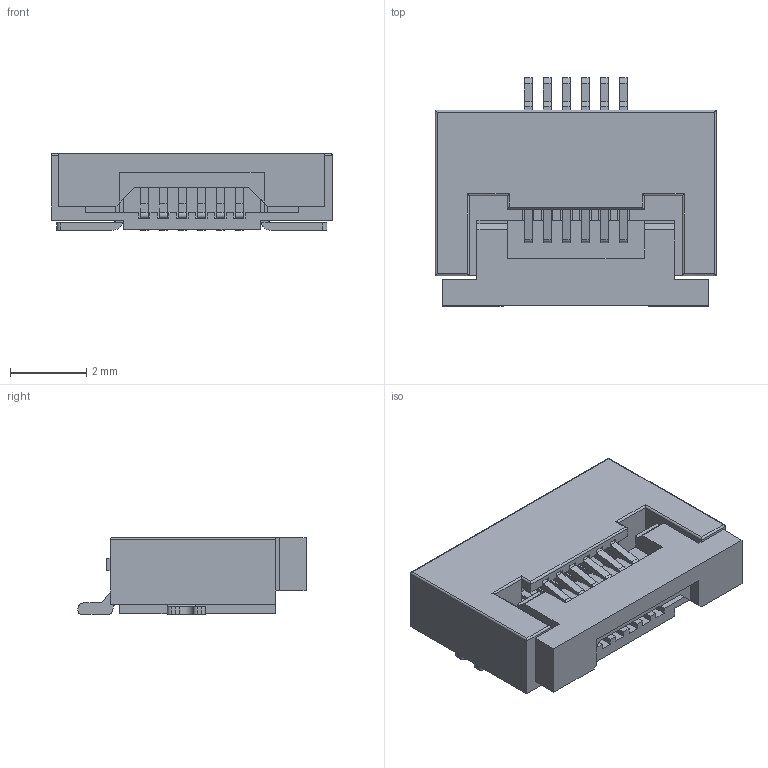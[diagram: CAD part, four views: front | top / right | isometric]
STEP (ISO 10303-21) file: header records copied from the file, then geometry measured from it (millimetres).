
FILE_DESCRIPTION (( 'STEP AP214' ), '1' );
FILE_NAME ('FPC-SMD_6P-P0.50_HC-FPC-0.5-6P-FH20.STEP', '2023-12-03T03:11:44', ( '' ), ( '' ), 'SwSTEP 2.0', 'SolidWorks 2020', '' );
FILE_SCHEMA (( 'AUTOMOTIVE_DESIGN' ));
Length unit declared in the file: millimetre
Products named in the file (1): FPC-SMD_6P-P0.50_HC-FPC-0.5-6P-FH20
Bounding box: 7.41 x 6 x 2.02 mm (x, y, z)
Volume: 48.6 mm3; surface area: 290.3 mm2
Topology: 10 solids, 10 shells, 566 faces, 1589 edges, 1048 vertices
Faces by surface type: plane 404, bspline 98, cylinder 64
Entity records: 24861 total; most frequent: CARTESIAN_POINT 4546, ORIENTED_EDGE 3178, DIRECTION 2423, EDGE_CURVE 1589, VECTOR 1269, LINE 1269, VERTEX_POINT 1048, EDGE_LOOP 587
